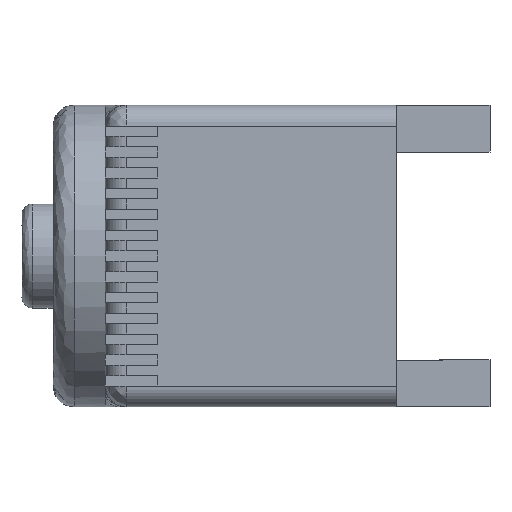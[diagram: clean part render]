
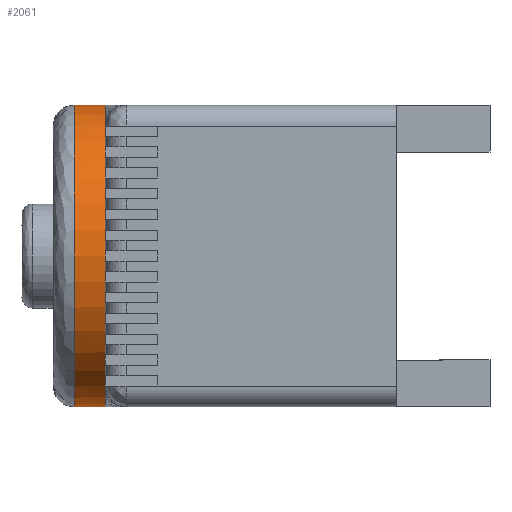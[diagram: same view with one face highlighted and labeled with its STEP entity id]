
A CAD part, left-side view. The second image highlights one B-rep face of the part: STEP entity #2061.
In plain terms, the highlighted cylindrical face has radius 14.5 mm (diameter 29 mm), a partial arc.
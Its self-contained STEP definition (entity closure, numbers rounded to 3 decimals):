
#272 = DIRECTION ( 'NONE',  ( 0., 0., 1. ) ) ;
#273 = DIRECTION ( 'NONE',  ( 0., -1., 0. ) ) ;
#274 = CARTESIAN_POINT ( 'NONE',  ( 22., 31., 14.5 ) ) ;
#283 = DIRECTION ( 'NONE',  ( 0., 1., 0. ) ) ;
#284 = CARTESIAN_POINT ( 'NONE',  ( 22., 28., 0. ) ) ;
#285 = LINE ( 'NONE', #284, #5092 ) ;
#309 = DIRECTION ( 'NONE',  ( 0., 1., 0. ) ) ;
#310 = CARTESIAN_POINT ( 'NONE',  ( 22., 28., 29. ) ) ;
#311 = LINE ( 'NONE', #310, #5502 ) ;
#351 = B_SPLINE_CURVE_WITH_KNOTS ( 'NONE', 3,
 ( #4122, #4121, #4120, #4119, #4118, #4117, #4116, #4115, #4114 ),
 .UNSPECIFIED., .F., .F.,
 ( 4, 1, 1, 1, 1, 1, 4 ),
 ( 0., 0.286, 0.429, 0.571, 0.714, 0.857, 1. ),
 .UNSPECIFIED. ) ;
#437 = B_SPLINE_CURVE_WITH_KNOTS ( 'NONE', 3,
 ( #4132, #4131, #4130, #4129, #4128, #4127, #4126 ),
 .UNSPECIFIED., .F., .F.,
 ( 4, 1, 1, 1, 4 ),
 ( 0., 0.286, 0.429, 0.714, 1. ),
 .UNSPECIFIED. ) ;
#507 = EDGE_LOOP ( 'NONE', ( #6402, #6185, #6440, #6626, #6066, #5865 ) ) ;
#1415 = EDGE_CURVE ( 'NONE', #6338, #6319, #311, .T. ) ;
#1423 = EDGE_CURVE ( 'NONE', #6332, #6322, #285, .T. ) ;
#1425 = EDGE_CURVE ( 'NONE', #6319, #6322, #2301, .T. ) ;
#1689 = EDGE_CURVE ( 'NONE', #6836, #6332, #437, .T. ) ;
#1690 = EDGE_CURVE ( 'NONE', #6837, #6836, #1781, .T. ) ;
#1691 = EDGE_CURVE ( 'NONE', #6338, #6837, #351, .T. ) ;
#1781 = CIRCLE ( 'NONE', #5060, 14.5 ) ;
#2061 = ADVANCED_FACE ( 'NONE', ( #5194 ), #5178, .T. ) ;
#2301 = CIRCLE ( 'NONE', #5113, 14.5 ) ;
#2426 = DIRECTION ( 'NONE',  ( 0., 0., 1. ) ) ;
#2427 = DIRECTION ( 'NONE',  ( 0., 1., 0. ) ) ;
#2428 = CARTESIAN_POINT ( 'NONE',  ( 22., 28., 14.5 ) ) ;
#4114 = CARTESIAN_POINT ( 'NONE',  ( 14.652, 28., 27. ) ) ;
#4115 = CARTESIAN_POINT ( 'NONE',  ( 14.922, 28., 27.159 ) ) ;
#4116 = CARTESIAN_POINT ( 'NONE',  ( 15.494, 28., 27.472 ) ) ;
#4117 = CARTESIAN_POINT ( 'NONE',  ( 16.441, 28., 27.906 ) ) ;
#4118 = CARTESIAN_POINT ( 'NONE',  ( 17.461, 28., 28.286 ) ) ;
#4119 = CARTESIAN_POINT ( 'NONE',  ( 18.536, 28., 28.595 ) ) ;
#4120 = CARTESIAN_POINT ( 'NONE',  ( 20.037, 28., 28.903 ) ) ;
#4121 = CARTESIAN_POINT ( 'NONE',  ( 21.215, 28., 29. ) ) ;
#4122 = CARTESIAN_POINT ( 'NONE',  ( 22., 28., 29. ) ) ;
#4123 = DIRECTION ( 'NONE',  ( 0., 0., 1. ) ) ;
#4124 = DIRECTION ( 'NONE',  ( 0., -1., 0. ) ) ;
#4125 = CARTESIAN_POINT ( 'NONE',  ( 22., 28., 14.5 ) ) ;
#4126 = CARTESIAN_POINT ( 'NONE',  ( 22., 28., 0. ) ) ;
#4127 = CARTESIAN_POINT ( 'NONE',  ( 21.215, 28., 0. ) ) ;
#4128 = CARTESIAN_POINT ( 'NONE',  ( 19.643, 28., 0.13 ) ) ;
#4129 = CARTESIAN_POINT ( 'NONE',  ( 17.8, 28., 0.588 ) ) ;
#4130 = CARTESIAN_POINT ( 'NONE',  ( 16.101, 28., 1.22 ) ) ;
#4131 = CARTESIAN_POINT ( 'NONE',  ( 15.193, 28., 1.682 ) ) ;
#4132 = CARTESIAN_POINT ( 'NONE',  ( 14.652, 28., 2. ) ) ;
#5060 = AXIS2_PLACEMENT_3D ( 'NONE', #4125, #4124, #4123 ) ;
#5092 = VECTOR ( 'NONE', #283, 1000. ) ;
#5113 = AXIS2_PLACEMENT_3D ( 'NONE', #274, #273, #272 ) ;
#5177 = AXIS2_PLACEMENT_3D ( 'NONE', #2428, #2427, #2426 ) ;
#5178 = CYLINDRICAL_SURFACE ( 'NONE', #5177, 14.5 ) ;
#5194 = FACE_OUTER_BOUND ( 'NONE', #507, .T. ) ;
#5502 = VECTOR ( 'NONE', #309, 1000. ) ;
#5865 = ORIENTED_EDGE ( 'NONE', *, *, #1425, .T. ) ;
#6066 = ORIENTED_EDGE ( 'NONE', *, *, #1415, .T. ) ;
#6185 = ORIENTED_EDGE ( 'NONE', *, *, #1689, .F. ) ;
#6319 = VERTEX_POINT ( 'NONE', #7199 ) ;
#6322 = VERTEX_POINT ( 'NONE', #7204 ) ;
#6332 = VERTEX_POINT ( 'NONE', #7221 ) ;
#6338 = VERTEX_POINT ( 'NONE', #7223 ) ;
#6402 = ORIENTED_EDGE ( 'NONE', *, *, #1423, .F. ) ;
#6440 = ORIENTED_EDGE ( 'NONE', *, *, #1690, .F. ) ;
#6626 = ORIENTED_EDGE ( 'NONE', *, *, #1691, .F. ) ;
#6836 = VERTEX_POINT ( 'NONE', #7121 ) ;
#6837 = VERTEX_POINT ( 'NONE', #7295 ) ;
#7121 = CARTESIAN_POINT ( 'NONE',  ( 14.652, 28., 2. ) ) ;
#7199 = CARTESIAN_POINT ( 'NONE',  ( 22., 31., 29. ) ) ;
#7204 = CARTESIAN_POINT ( 'NONE',  ( 22., 31., 0. ) ) ;
#7221 = CARTESIAN_POINT ( 'NONE',  ( 22., 28., 0. ) ) ;
#7223 = CARTESIAN_POINT ( 'NONE',  ( 22., 28., 29. ) ) ;
#7295 = CARTESIAN_POINT ( 'NONE',  ( 14.652, 28., 27. ) ) ;
